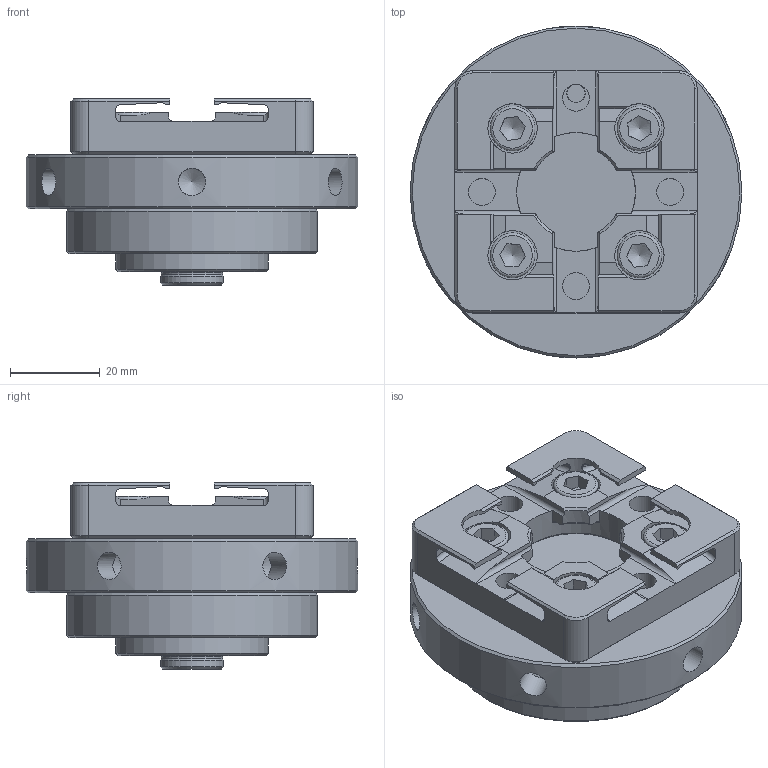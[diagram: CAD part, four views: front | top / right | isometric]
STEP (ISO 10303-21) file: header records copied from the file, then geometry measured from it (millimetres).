
FILE_DESCRIPTION(/* description */ ('Palette 54x54'),/* implementation_level */ '2;1');
FILE_NAME(/* name */ 'D:\03 Projekte\Futtervariationen\(2) Dateien für Webseite\DBFxxx Nullpunktspannsysteme\DBF55_98-01 Aufnahme 3R.iam.stp',/* time_stamp */ '2022-01-27T15:16:38+01:00',/* author */ ('Dirk Pustolla'),/* organization */ (''),/* preprocessor_version */ 'ST-DEVELOPER v15.2',/* originating_system */ 'Autodesk Inventor 2014',/* authorisation */ '');
FILE_SCHEMA (('AUTOMOTIVE_DESIGN { 1 0 10303 214 3 1 1 }'));
Length unit declared in the file: millimetre
Products named in the file (7): 3R-651.7-P Palette 54x54; DBFxx_98-01-10 Adapterplatte; ISO 4762 - M6 x 12DIN EN ISO; DBFxx_98-01-00 Aufnahme 3R; DBF55_98-12 Adapter Nullpunktspannsystem; ISO 4762 - M5 x 16DIN EN ISO; DBF55_98-01 Aufnahme 3R
Bounding box: 74 x 74 x 41.5 mm (x, y, z)
Volume: 97069.3 mm3; surface area: 36230 mm2
Topology: 10 solids, 10 shells, 452 faces, 1189 edges, 774 vertices
Faces by surface type: plane 278, cylinder 105, cone 48, torus 21
Full cylindrical faces by diameter (mm): 2.459 x3, 4.134 x3, 4.917 x4, 5 x3, 5.5 x3, 6 x8, 6.1 x6, 6.6 x4, 8 x2, 8.5 x3, 9 x4, 10 x7, 11 x4, 11.4 x1, 13.6 x1, 14 x1, 26.5 x1, 34 x1, 56 x1, 74 x1
Entity records: 11849 total; most frequent: CARTESIAN_POINT 2599, DIRECTION 1849, ORIENTED_EDGE 1818, EDGE_CURVE 909, VERTEX_POINT 636, AXIS2_PLACEMENT_3D 630, LINE 589, VECTOR 589
